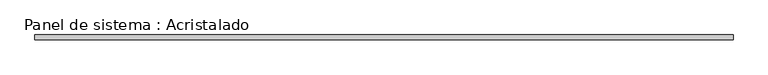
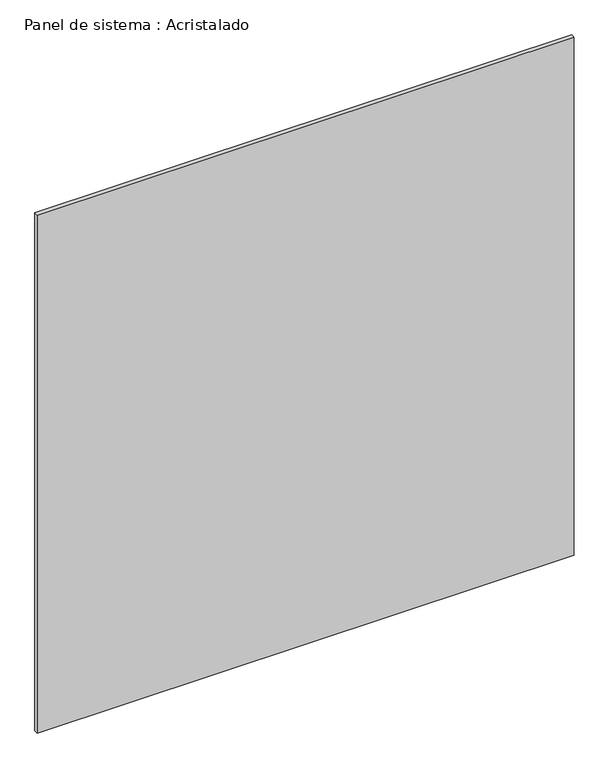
"""IFC4 building model written with IfcOpenShell, lengths in millimetres: plate geometry, Panel de sistema : Acristalado."""

import ifcopenshell
import ifcopenshell.guid

model = None  # the IFC model being written
_history = None  # IfcOwnerHistory: only IFC2X3 demands one
_inside = {}  # id of a spatial element -> (the spatial element, [elements in it])
_under = {}  # id of a project, library or spatial element -> (it, [spatial elements below it])
_declared = {}  # id of a project -> (the project, [libraries it declares])
_typed = {}  # id of a type object -> (the type object, [elements of that type])
_made_of = {}  # id of a material, layer set ... -> (it, [elements and type objects made of it])


def new_model(schema):
    """Start an empty IFC model of exactly this schema.

    Asked for "IFC4X3", IfcOpenShell would pick the latest addendum, in which some entities
    have other attributes; the version numbers below select the first issue.
    IFC2X3 requires an IfcOwnerHistory on every rooted entity: one is made here for all.
    """
    global model, _history
    if schema == "IFC4X3":
        model = ifcopenshell.file(schema_version=(4, 3, 0, 0))
    else:
        model = ifcopenshell.file(schema=schema)
    _inside.clear()
    _under.clear()
    _declared.clear()
    _typed.clear()
    _made_of.clear()
    _history = None
    if model.schema == "IFC2X3":
        org = make("IfcOrganization", Name="unknown")
        user = make(
            "IfcPersonAndOrganization",
            ThePerson=make("IfcPerson", FamilyName="unknown"),
            TheOrganization=org,
        )
        app = make(
            "IfcApplication",
            ApplicationDeveloper=org,
            Version="unknown",
            ApplicationFullName="unknown",
            ApplicationIdentifier="unknown",
        )
        _history = make(
            "IfcOwnerHistory",
            OwningUser=user,
            OwningApplication=app,
            ChangeAction="ADDED",
            CreationDate=0,
        )
    return model


def make(cls, **values):
    """One entity of the class cls with the attributes given. An attribute that is None is left unset."""
    return model.create_entity(
        cls, **{name: value for name, value in values.items() if value is not None}
    )


def rooted(cls, **values):
    """An entity with a GlobalId (a new one), such as an element, a storey or a relation."""
    return make(cls, GlobalId=ifcopenshell.guid.new(), OwnerHistory=_history, **values)


def si_unit(unit_type, name, prefix=None):
    """IfcSIUnit, for example si_unit("LENGTHUNIT", "METRE", prefix="MILLI")."""
    return make("IfcSIUnit", UnitType=unit_type, Prefix=prefix, Name=name)


def assignment(units):
    """IfcUnitAssignment: the units of a project."""
    return None if units is None else make("IfcUnitAssignment", Units=units)


def point(xyz):
    """IfcCartesianPoint."""
    return None if xyz is None else make("IfcCartesianPoint", Coordinates=xyz)


def direction(xyz):
    """IfcDirection."""
    return None if xyz is None else make("IfcDirection", DirectionRatios=xyz)


def frame(location, z_axis=None, x_axis=None):
    """IfcAxis2Placement3D, a coordinate frame: its origin and axes. An axis left out is left unset."""
    return make(
        "IfcAxis2Placement3D",
        Location=point(location),
        Axis=direction(z_axis),
        RefDirection=direction(x_axis),
    )


def origin():
    """The frame at (0, 0, 0) with its axes left unset."""
    return frame((0.0, 0.0, 0.0))


def origin_with_axes():
    """The frame at (0, 0, 0) with the z axis (0, 0, 1) and the x axis (1, 0, 0) written out."""
    return frame((0.0, 0.0, 0.0), z_axis=(0.0, 0.0, 1.0), x_axis=(1.0, 0.0, 0.0))


def place(relative_to, where):
    """IfcLocalPlacement: puts the frame where relative to a parent placement (None: the world)."""
    return make(
        "IfcLocalPlacement", PlacementRelTo=relative_to, RelativePlacement=where
    )


def context(
    kind, dimensions, precision=None, world=None, true_north=None, identifier=None
):
    """IfcGeometricRepresentationContext, for example the 3D "Model" context."""
    return make(
        "IfcGeometricRepresentationContext",
        ContextIdentifier=identifier,
        ContextType=kind,
        CoordinateSpaceDimension=dimensions,
        Precision=precision,
        WorldCoordinateSystem=world,
        TrueNorth=true_north,
    )


def project(units=None, contexts=None):
    """IfcProject with its units and contexts."""
    return rooted(
        "IfcProject",
        Name="project",
        RepresentationContexts=contexts,
        UnitsInContext=assignment(units),
    )


def spatial(cls, under=None, at=None, **own):
    """A site, building, storey or space (cls), placed at a placement, below another one or the project."""
    s = rooted(cls, ObjectPlacement=at, **own)
    if under is not None:
        _under.setdefault(under.id(), (under, []))[1].append(s)
    return s


def polyline(points):
    """IfcPolyline through the points."""
    return make("IfcPolyline", Points=[point(p) for p in points])


def outline(outer, holes=None, kind="AREA"):
    """IfcArbitraryClosedProfileDef: a profile drawn as a closed curve; with holes, ...WithVoids."""
    if holes is None:
        return make("IfcArbitraryClosedProfileDef", ProfileType=kind, OuterCurve=outer)
    return make(
        "IfcArbitraryProfileDefWithVoids",
        ProfileType=kind,
        OuterCurve=outer,
        InnerCurves=holes,
    )


def extrude(swept, where, along, depth):
    """IfcExtrudedAreaSolid: the profile swept, set in the frame where, extruded along a direction by depth."""
    return make(
        "IfcExtrudedAreaSolid",
        SweptArea=swept,
        Position=where,
        ExtrudedDirection=direction(along),
        Depth=depth,
    )


def shape(context_of_items, identifier, shape_type, items):
    """IfcShapeRepresentation: the items that make up one representation, for example the "Body"."""
    return make(
        "IfcShapeRepresentation",
        ContextOfItems=context_of_items,
        RepresentationIdentifier=identifier,
        RepresentationType=shape_type,
        Items=items,
    )


def source(mapping_origin, context_of_items, identifier, shape_type, items):
    """IfcRepresentationMap: a shape defined once, which mapped items show again and again."""
    return make(
        "IfcRepresentationMap",
        MappingOrigin=mapping_origin,
        MappedRepresentation=shape(context_of_items, identifier, shape_type, items),
    )


def transform(
    local_origin,
    x_axis=None,
    y_axis=None,
    z_axis=None,
    scale=None,
    scale2=None,
    scale3=None,
    uniform=True,
):
    """IfcCartesianTransformationOperator3D, or its non-uniform kind. x_axis, y_axis, z_axis: its Axis1, 2, 3."""
    if uniform:
        return make(
            "IfcCartesianTransformationOperator3D",
            Axis1=direction(x_axis),
            Axis2=direction(y_axis),
            LocalOrigin=point(local_origin),
            Scale=scale,
            Axis3=direction(z_axis),
        )
    return make(
        "IfcCartesianTransformationOperator3DnonUniform",
        Axis1=direction(x_axis),
        Axis2=direction(y_axis),
        LocalOrigin=point(local_origin),
        Scale=scale,
        Axis3=direction(z_axis),
        Scale2=scale2,
        Scale3=scale3,
    )


def mapped(mapping_source, mapping_target):
    """IfcMappedItem: shows the shape of a source again, moved by a transform."""
    return make(
        "IfcMappedItem", MappingSource=mapping_source, MappingTarget=mapping_target
    )


def made_of(thing, what):
    """Note that an element or type object is made of a material, layer set ...; save() writes the relation."""
    if what is not None:
        _made_of.setdefault(what.id(), (what, []))[1].append(thing)
    return thing


def element(
    cls,
    number,
    at=None,
    inside=None,
    cuts=None,
    type_object=None,
    material=None,
    context=None,
    identifier="Body",
    shape_type=None,
    held_by="IfcProductDefinitionShape",
    body=None,
    shapes=None,
    **own,
):
    """One element of the class cls, such as IfcWall. Its Tag is "e" and its number.

    at: its placement. inside: the storey or other place that contains it. cuts: it is an
    opening in that element (IfcRelVoidsElement). A single representation is given by context,
    identifier, shape_type and body (its items); several are given by shapes. held_by: the class
    of the entity that holds the representations. save() writes the other relations.
    """
    e = rooted(cls, Tag="e%d" % number, ObjectPlacement=at, **own)
    if body is not None:
        shapes = [shape(context, identifier, shape_type, body)]
    if shapes is not None:
        e.Representation = make(held_by, Representations=shapes)
    if inside is not None:
        _inside.setdefault(inside.id(), (inside, []))[1].append(e)
    if cuts is not None:
        rooted(
            "IfcRelVoidsElement", RelatingBuildingElement=cuts, RelatedOpeningElement=e
        )
    if type_object is not None:
        _typed.setdefault(type_object.id(), (type_object, []))[1].append(e)
    return made_of(e, material)


def aggregate(whole, parts):
    """IfcRelAggregates: a whole, such as a stair, and the parts it consists of."""
    return rooted("IfcRelAggregates", RelatingObject=whole, RelatedObjects=parts)


def save(model, path):
    """Write the relations noted so far, then the file.

    IfcRelAggregates (storeys below a building ...), IfcRelContainedInSpatialStructure (elements
    in a storey), IfcRelDefinesByType, IfcRelAssociatesMaterial and IfcRelDeclares: one each for
    every whole, place, type object, material and project.
    """
    for whole, parts in _under.values():
        aggregate(whole, parts)
    for where, things in _inside.values():
        rooted(
            "IfcRelContainedInSpatialStructure",
            RelatedElements=things,
            RelatingStructure=where,
        )
    for kind, things in _typed.values():
        rooted("IfcRelDefinesByType", RelatedObjects=things, RelatingType=kind)
    for what, things in _made_of.values():
        rooted("IfcRelAssociatesMaterial", RelatedObjects=things, RelatingMaterial=what)
    for by, libraries in _declared.values():
        rooted("IfcRelDeclares", RelatingContext=by, RelatedDefinitions=libraries)
    model.write(path)


def panel_de_sistema_acristalado_16543b9d(model_context):
    return source(origin(), model_context, "Body", "SweptSolid", [
        extrude(outline(polyline([(1382.7844828, -10.0), (-1382.7844828, -10.0), (-1382.7844828, 10.0), (1382.7844828, 10.0), (1382.7844828, -10.0)])), origin_with_axes(), (0.0, 0.0, 1.0), 2820.0),
    ])


if __name__ == "__main__":
    model = new_model("IFC4")
    model_context = context("Model", 3, world=origin())
    ifc_project = project(units=[si_unit("LENGTHUNIT", "METRE", prefix="MILLI")], contexts=[model_context])
    site = spatial("IfcSite", under=ifc_project)
    building = spatial("IfcBuilding", under=site)
    placement = place(None, origin())
    panel_de_sistema_acristalado_shape = panel_de_sistema_acristalado_16543b9d(model_context)
    element("IfcPlate", 1, ObjectType="Panel de sistema : Acristalado", at=placement, inside=building, context=model_context, shape_type="MappedRepresentation", body=[
        mapped(panel_de_sistema_acristalado_shape, transform((0.0, 0.0, 0.0), x_axis=(1.0, 0.0, 0.0), y_axis=(0.0, 1.0, 0.0), z_axis=(0.0, 0.0, 1.0))),
    ])
    save(model, "model.ifc")
